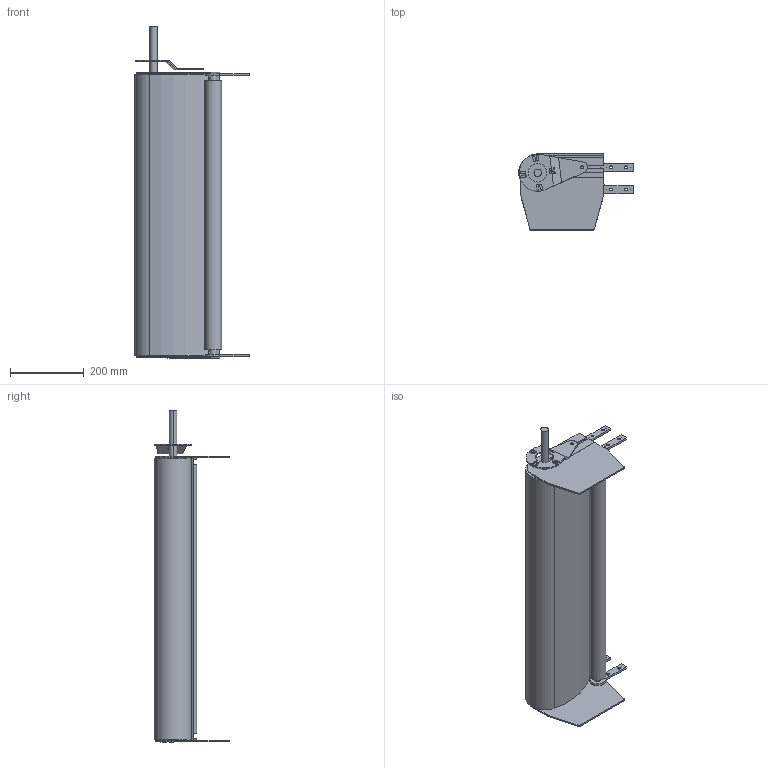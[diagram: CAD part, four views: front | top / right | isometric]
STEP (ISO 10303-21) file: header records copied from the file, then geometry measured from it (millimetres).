
FILE_DESCRIPTION (( 'STEP AP214' ), '1' );
FILE_NAME ('FS-770-MTS-100.ALU Left Drive section.STEP', '2017-02-08T09:28:53', ( '' ), ( '' ), 'SwSTEP 2.0', 'SolidWorks 2016', '' );
FILE_SCHEMA (( 'AUTOMOTIVE_DESIGN' ));
Length unit declared in the file: millimetre
Products named in the file (1): FS-770-MTS-100.ALU Left Drive section
Bounding box: 309.96 x 205 x 898 mm (x, y, z)
Volume: 5489725.5 mm3; surface area: 1227541.5 mm2
Topology: 3 solids, 3 shells, 236 faces, 689 edges, 456 vertices
Faces by surface type: plane 131, cylinder 105
Entity records: 8039 total; most frequent: CARTESIAN_POINT 1394, ORIENTED_EDGE 1378, DIRECTION 1365, EDGE_CURVE 689, VECTOR 479, LINE 479, VERTEX_POINT 456, AXIS2_PLACEMENT_3D 443
